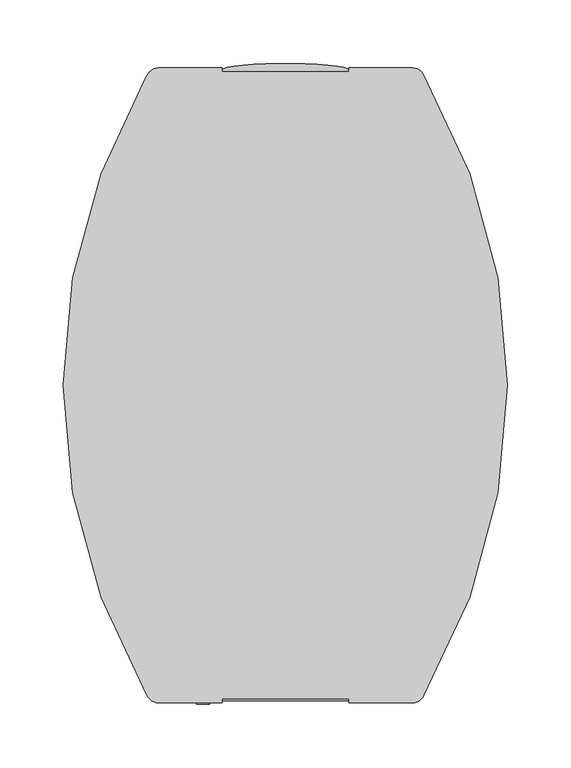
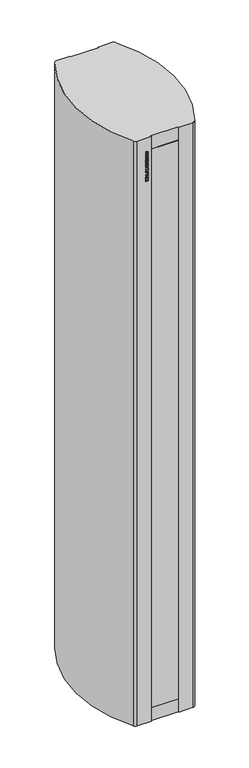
"""IFC4 building model written with IfcOpenShell, lengths in millimetres: proxy geometry, ADSK_Завеса дизайнерская_Электрическая : KVC-S22E18-31."""

from ifc_helpers import new_model, si_unit, point, frame, frame_2d, origin, origin_with_axes, place, context, project, spatial, polyline, circle_curve, ellipse_curve, trimmed, segment, composite_curve, outline, extrude, faceted_brep, source, transform, mapped, element, save
from ifc_brep_helpers import plane_surface, extruded_surface, advanced_brep


def mechanical_equipment_7947e5b6(model_context):
    return source(origin(), model_context, "Body", "SolidModel", [
        extrude(outline(polyline([(2050.0784314, -70.0), (2050.0784314, -60.0), (2053.2156863, -60.0), (2053.2156863, -61.7647059), (2054.9865196, -63.7745098), (2056.8186275, -60.0), (2060.6666667, -60.0), (2057.192402, -66.2775735), (2060.4705882, -70.0), (2056.1997549, -70.0), (2053.2156863, -66.2224265), (2053.2156863, -70.0), (2050.0784314, -70.0)])), frame((0.0, -251.0, 0.0), z_axis=(0.0, 1.0, 0.0), x_axis=(0.0, 0.0, 1.0)), (0.0, 0.0, 1.0), 1.0),
        extrude(outline(polyline([(2067.6642157, -61.5686275), (2068.1176471, -60.0), (2071.4509804, -60.0), (2068.0778186, -70.0), (2064.0398284, -70.0), (2060.6666667, -60.0), (2064.0, -60.0), (2064.4319853, -61.5686275), (2067.6642157, -61.5686275)]), holes=[polyline([(2067.0698529, -63.9215686), (2065.0814951, -63.9215686), (2066.0588235, -67.4540441), (2067.0698529, -63.9215686)])]), frame((0.0, -251.0, 0.0), z_axis=(0.0, 1.0, 0.0), x_axis=(0.0, 0.0, 1.0)), (0.0, 0.0, 1.0), 1.0),
        extrude(outline(polyline([(2072.4313725, -70.0), (2072.4313725, -60.0), (2080.2745098, -60.0), (2080.2745098, -62.3529412), (2075.5686275, -62.3529412), (2075.5686275, -70.0), (2072.4313725, -70.0)])), frame((0.0, -251.0, 0.0), z_axis=(0.0, 1.0, 0.0), x_axis=(0.0, 0.0, 1.0)), (0.0, 0.0, 1.0), 1.0),
        extrude(outline(polyline([(2087.6642157, -61.5686275), (2088.1176471, -60.0), (2091.4509804, -60.0), (2088.0778186, -70.0), (2084.0398284, -70.0), (2080.6666667, -60.0), (2084.0, -60.0), (2084.4319853, -61.5686275), (2087.6642157, -61.5686275)]), holes=[polyline([(2087.0698529, -63.9215686), (2085.0814951, -63.9215686), (2086.0588235, -67.4540441), (2087.0698529, -63.9215686)])]), frame((0.0, -251.0, 0.0), z_axis=(0.0, 1.0, 0.0), x_axis=(0.0, 0.0, 1.0)), (0.0, 0.0, 1.0), 1.0),
        extrude(outline(polyline([(2091.8431373, -63.3394608), (2092.9491422, -60.8026961), (2096.4601716, -59.8039216), (2098.8560049, -60.2297794), (2100.3342525, -61.4813113), (2100.8627451, -63.28125), (2100.4675245, -64.7870711), (2099.2022059, -65.9129902), (2096.3223039, -66.8106618), (2096.1905637, -68.4313725), (2096.9641544, -68.1050858), (2097.3333333, -67.0588235), (2100.4705882, -67.2395833), (2099.2925858, -69.4883578), (2096.4172794, -70.1960784), (2093.9969363, -69.8039216), (2092.6749387, -68.7285539), (2092.2352941, -67.276348), (2093.1023284, -65.3492647), (2095.9761029, -64.1237745), (2097.7254902, -62.8186275), (2097.4114583, -62.0818015), (2096.5183824, -61.7647059), (2095.3204657, -62.3958333), (2094.9803922, -63.5294118), (2091.8431373, -63.3394608)])), frame((0.0, -251.0, 0.0), z_axis=(0.0, 1.0, 0.0), x_axis=(0.0, 0.0, 1.0)), (0.0, 0.0, 1.0), 1.0),
        extrude(outline(polyline([(2102.4313725, -70.0), (2102.4313725, -60.0), (2105.5686275, -60.0), (2105.5686275, -64.1176471), (2108.9019608, -64.1176471), (2108.9019608, -60.0), (2112.0392157, -60.0), (2112.0392157, -70.0), (2108.9019608, -70.0), (2108.9019608, -66.4705882), (2105.5686275, -66.4705882), (2105.5686275, -70.0), (2102.4313725, -70.0)])), frame((0.0, -251.0, 0.0), z_axis=(0.0, 1.0, 0.0), x_axis=(0.0, 0.0, 1.0)), (0.0, 0.0, 1.0), 1.0),
        extrude(outline(polyline([(2114.0, -70.0), (2114.0, -60.0), (2116.9411765, -60.0), (2116.9411765, -65.4901961), (2120.6666667, -60.0), (2123.6078431, -60.0), (2123.6078431, -70.0), (2120.6666667, -70.0), (2120.6666667, -64.4730392), (2116.9197304, -70.0), (2114.0, -70.0)])), frame((0.0, -251.0, 0.0), z_axis=(0.0, 1.0, 0.0), x_axis=(0.0, 0.0, 1.0)), (0.0, 0.0, 1.0), 1.0),
        extrude(outline(polyline([(-60.0, -251.0), (-70.0, -251.0), (-70.0, -250.0), (-60.0, -250.0), (-60.0, -251.0)])), frame((0.0, 0.0, 2125.7647059), z_axis=(0.0, 0.0, 1.0), x_axis=(1.0, 0.0, 0.0)), (0.0, 0.0, 1.0), 3.1372549),
        extrude(outline(polyline([(2131.0588235, -70.0), (2131.0588235, -60.0), (2134.1960784, -60.0), (2134.1960784, -61.7647059), (2135.9669118, -63.7745098), (2137.7990196, -60.0), (2141.6470588, -60.0), (2138.1727941, -66.2775735), (2141.4509804, -70.0), (2137.1801471, -70.0), (2134.1960784, -66.2224265), (2134.1960784, -70.0), (2131.0588235, -70.0)])), frame((0.0, -251.0, 0.0), z_axis=(0.0, 1.0, 0.0), x_axis=(0.0, 0.0, 1.0)), (0.0, 0.0, 1.0), 1.0),
        extrude(outline(polyline([(2142.2352941, -64.9938725), (2142.9261642, -62.0603554), (2144.7291667, -60.346201), (2147.5386029, -59.8039216), (2150.3250613, -60.4304534), (2152.036152, -62.1859681), (2152.627451, -65.0765931), (2151.2732843, -68.8495711), (2147.4129902, -70.1960784), (2143.6032475, -68.8250613), (2142.2352941, -64.9938725)]), holes=[polyline([(2145.372549, -64.9938725), (2145.9301471, -67.1813725), (2147.4068627, -67.8431373), (2148.9295343, -67.1920956), (2149.4901961, -65.1286765), (2148.9525123, -62.8048407), (2147.4344363, -62.1568627), (2145.9270833, -62.8186275), (2145.372549, -64.9938725)])]), frame((0.0, -251.0, 0.0), z_axis=(0.0, 1.0, 0.0), x_axis=(0.0, 0.0, 1.0)), (0.0, 0.0, 1.0), 1.0),
        extrude(outline(polyline([(2153.4117647, -70.0), (2157.1280637, -60.0), (2160.4583333, -60.0), (2164.1960784, -70.0), (2160.8627451, -70.0), (2158.8039216, -62.8033088), (2156.7420343, -70.0), (2153.4117647, -70.0)])), frame((0.0, -251.0, 0.0), z_axis=(0.0, 1.0, 0.0), x_axis=(0.0, 0.0, 1.0)), (0.0, 0.0, 1.0), 1.0),
        faceted_brep([(50.0, -247.0, 2164.0), (-50.0, -247.0, 2164.0), (-50.0, -248.5, 2164.0), (50.0, -248.5, 2164.0), (50.0, -247.0, 50.0), (50.0, -248.5, 50.0), (-50.0, -248.5, 50.0), (-50.0, -247.0, 50.0)], [[[0, 1, 2, 3]], [[4, 5, 6, 7]], [[1, 0, 4, 7]], [[2, 1, 7, 6]], [[3, 2, 6, 5]], [[0, 3, 5, 4]]]),
        advanced_brep(
        [(-50.0, 248.5, 2164.0), (-50.0, 247.0, 2164.0), (50.0, 247.0, 2164.0), (50.0, 248.5, 2164.0), (-50.0, 248.5, 50.0), (50.0, 248.5, 50.0), (50.0, 247.0, 50.0), (-50.0, 247.0, 50.0)],
        [
            (0, 1),
            (1, 2),
            (2, 3),
            (3, 0, ellipse_curve(frame((0.0, 248.5, 2164.0), z_axis=(0.0, 0.0, 1.0), x_axis=(-1.0, 0.0, 0.0)), 50.0, 5.0)),
            (4, 5, ellipse_curve(frame((0.0, 248.5, 50.0), z_axis=(0.0, 0.0, -1.0), x_axis=(-1.0, 0.0, 0.0)), 50.0, 5.0)),
            (5, 6),
            (6, 7),
            (7, 4),
            (0, 4),
            (7, 1),
            (6, 2),
            (5, 3),
        ],
        [
            plane_surface(frame((-50.0, -247.0, 2164.0), z_axis=(0.0, 0.0, 1.0), x_axis=(-1.0, 0.0, 0.0))),
            plane_surface(frame((-50.0, -247.0, 50.0), z_axis=(0.0, 0.0, -1.0), x_axis=(1.0, 0.0, 0.0))),
            plane_surface(frame((-50.0, 248.5, 2164.0), z_axis=(-1.0, 0.0, 0.0), x_axis=(0.0, 0.0, -1.0))),
            plane_surface(frame((-50.0, 247.0, 2164.0), z_axis=(0.0, -1.0, 0.0), x_axis=(0.0, 0.0, -1.0))),
            plane_surface(frame((50.0, 247.0, 2164.0), z_axis=(1.0, 0.0, 0.0), x_axis=(0.0, 0.0, -1.0))),
            extruded_surface(trimmed(ellipse_curve(frame((0.0, 248.5, -2114.0), z_axis=(0.0, 0.0, 1.0), x_axis=(-1.0, 0.0, 0.0)), 50.0, 5.0), [point((50.0, 248.5, -2114.0))], [point((-50.0, 248.5, -2114.0))], True, "CARTESIAN"), (0.0, 0.0, 2114.0), 2114.0),
        ],
        [
            (0, [[1, 2, 3, 4]]),
            (1, [[5, 6, 7, 8]]),
            (2, [[-1, 9, -8, 10]]),
            (3, [[-2, -10, -7, 11]]),
            (4, [[-3, -11, -6, 12]]),
            (5, [[-4, -12, -5, -9]]),
        ],
    ),
        extrude(outline(composite_curve([segment(polyline([(-50.0, 250.0), (-50.0, 247.0), (50.0, 247.0), (50.0, 250.0), (100.0, 250.0)]), True, "CONTINUOUS"), segment(trimmed(circle_curve(frame_2d((100.0, 240.0)), 10.0), [point((100.0, 250.0))], [point((109.287324, 243.7075077))], False, "CARTESIAN"), True, "CONTINUOUS"), segment(trimmed(circle_curve(frame_2d((-309.7733265, 0.0)), 484.7733265), [point((109.287324, 243.7075077))], [point((109.287324, -243.7075077))], False, "CARTESIAN"), True, "CONTINUOUS"), segment(trimmed(circle_curve(frame_2d((100.0, -240.0)), 10.0), [point((109.287324, -243.7075077))], [point((100.0, -250.0))], False, "CARTESIAN"), True, "CONTINUOUS"), segment(polyline([(100.0, -250.0), (50.0, -250.0), (50.0, -247.0), (-50.0, -247.0), (-50.0, -250.0), (-100.0, -250.0)]), True, "CONTINUOUS"), segment(trimmed(circle_curve(frame_2d((-100.0, -240.0)), 10.0), [point((-100.0, -250.0))], [point((-109.287324, -243.7075077))], False, "CARTESIAN"), True, "CONTINUOUS"), segment(trimmed(circle_curve(frame_2d((309.7733265, 0.0)), 484.7733265), [point((-109.287324, -243.7075077))], [point((-109.287324, 243.7075077))], False, "CARTESIAN"), True, "CONTINUOUS"), segment(trimmed(circle_curve(frame_2d((-100.0, 240.0)), 10.0), [point((-109.287324, 243.7075077))], [point((-100.0, 250.0))], False, "CARTESIAN"), True, "CONTINUOUS"), segment(polyline([(-100.0, 250.0), (-50.0, 250.0)]), True, "CONTINUOUS")], self_intersect=False)), origin_with_axes(), (0.0, 0.0, 1.0), 2214.0),
    ])


if __name__ == "__main__":
    model = new_model("IFC4")
    model_context = context("Model", 3, world=origin())
    ifc_project = project(units=[si_unit("LENGTHUNIT", "METRE", prefix="MILLI")], contexts=[model_context])
    site = spatial("IfcSite", under=ifc_project)
    building = spatial("IfcBuilding", under=site)
    placement = place(None, origin())
    mechanical_equipment_shape = mechanical_equipment_7947e5b6(model_context)
    element("IfcBuildingElementProxy", 1, Name="ADSK_Завеса дизайнерская_Электрическая : KVC-S22E18-31", ObjectType="ADSK_Завеса дизайнерская_Электрическая : KVC-S22E18-31", at=placement, inside=building, context=model_context, shape_type="MappedRepresentation", body=[
        mapped(mechanical_equipment_shape, transform((0.0, 0.0, 0.0), x_axis=(1.0, 0.0, 0.0), y_axis=(0.0, 1.0, 0.0), z_axis=(0.0, 0.0, 1.0))),
    ])
    save(model, "model.ifc")
